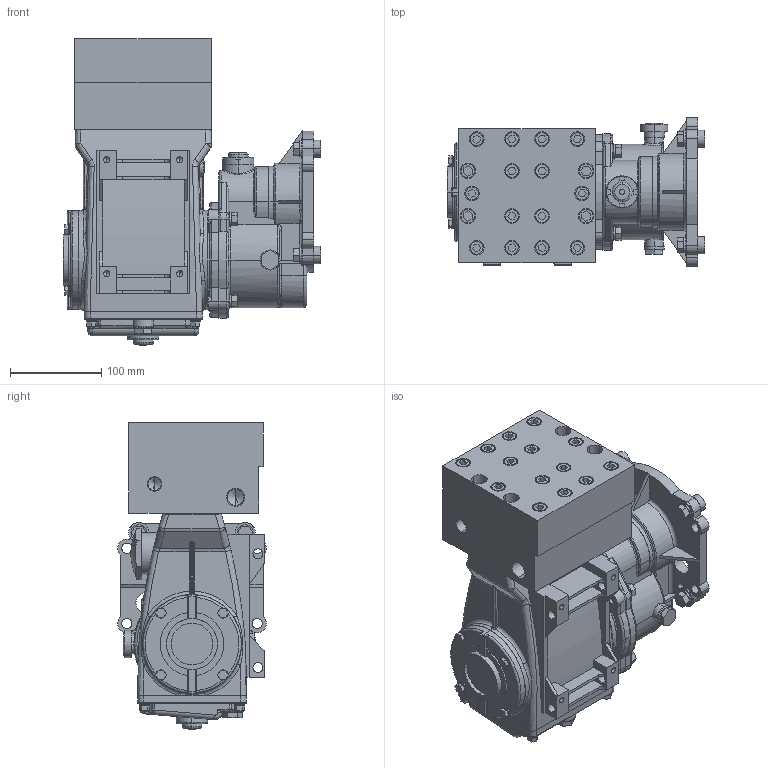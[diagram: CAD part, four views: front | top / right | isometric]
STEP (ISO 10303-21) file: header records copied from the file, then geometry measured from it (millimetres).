
FILE_DESCRIPTION (( 'STEP AP214' ), '1' );
FILE_NAME ('781G1.STEP', '2017-09-27T12:25:40', ( '' ), ( '' ), 'SwSTEP 2.0', 'SolidWorks 2017', '' );
FILE_SCHEMA (( 'AUTOMOTIVE_DESIGN' ));
Length unit declared in the file: millimetre
Products named in the file (3): 000781; 008071; 781G1
Assembly tree (2 placements, depth 2):
  781G1
    000781
    008071
Bounding box: 282.95 x 163.05 x 336.17 mm (x, y, z)
Volume: 6956420.3 mm3; surface area: 484998.7 mm2
Topology: 3 solids, 7 shells, 1578 faces, 3824 edges, 2357 vertices
Faces by surface type: plane 858, cylinder 494, bspline 139, torus 44, cone 41, sphere 2
Entity records: 67032 total; most frequent: CARTESIAN_POINT 18274, DIRECTION 7715, ORIENTED_EDGE 7562, EDGE_CURVE 3781, AXIS2_PLACEMENT_3D 2843, VERTEX_POINT 2357, VECTOR 2029, LINE 2029
